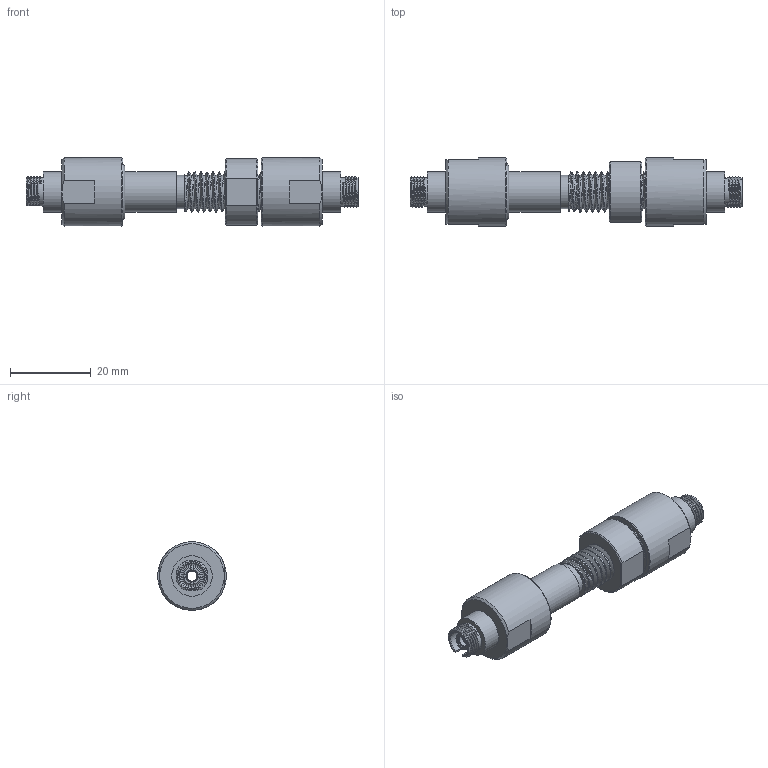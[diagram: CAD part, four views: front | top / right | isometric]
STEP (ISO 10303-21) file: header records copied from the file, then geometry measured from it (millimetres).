
FILE_DESCRIPTION (( 'STEP AP203' ), '1' );
FILE_NAME ('FFFCM10.STEP', '2024-04-19T18:49:09', ( '' ), ( '' ), 'SwSTEP 2.0', 'SolidWorks 2023', '' );
FILE_SCHEMA (( 'CONFIG_CONTROL_DESIGN' ));
Length unit declared in the file: millimetre
Products named in the file (1): FFFCM10
Bounding box: 82.1 x 17 x 17 mm (x, y, z)
Surface area: 7478.5 mm2 (no closed solid volume)
Topology: 0 solids, 13 shells, 156 faces, 411 edges, 276 vertices
Faces by surface type: plane 63, cylinder 45, bspline 24, cone 19, torus 5
Full cylindrical faces by diameter (mm): 2.7 x2, 3.3 x2, 4.4 x2, 6.1 x2, 7.1 x2, 7.4 x2, 8.2 x1, 10 x3, 14.8 x1, 17 x2
Entity records: 16479 total; most frequent: CARTESIAN_POINT 13176, ORIENTED_EDGE 674, DIRECTION 566, EDGE_CURVE 364, VERTEX_POINT 263, AXIS2_PLACEMENT_3D 229, EDGE_LOOP 203, FACE_OUTER_BOUND 176
